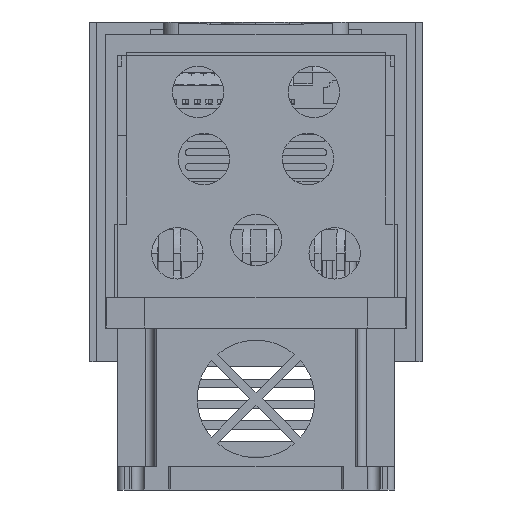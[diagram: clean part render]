
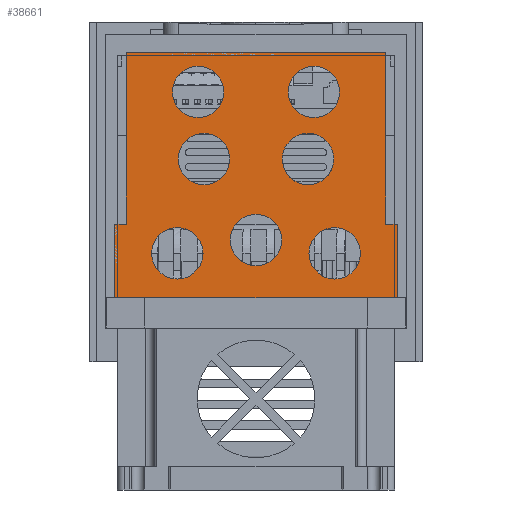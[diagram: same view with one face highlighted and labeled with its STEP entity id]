
A CAD part, front view. The second image highlights one B-rep face of the part: STEP entity #38661.
In plain terms, the highlighted planar face has unit normal (0, -1, 0).
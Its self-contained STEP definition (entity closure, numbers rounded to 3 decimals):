
#37435=DIRECTION('',(-1.,0.,0.));
#37436=VECTOR('',#37435,4.959);
#37437=CARTESIAN_POINT('',(-56.041,-184.,114.908));
#37438=LINE('',#37437,#37436);
#37547=DIRECTION('',(-1.,0.,0.));
#37548=VECTOR('',#37547,112.082);
#37549=CARTESIAN_POINT('',(56.041,-184.,189.));
#37550=LINE('',#37549,#37548);
#37551=DIRECTION('',(0.,0.,1.));
#37552=VECTOR('',#37551,74.092);
#37553=CARTESIAN_POINT('',(56.041,-184.,114.908));
#37554=LINE('',#37553,#37552);
#37587=DIRECTION('',(0.,0.,1.));
#37588=VECTOR('',#37587,31.908);
#37589=CARTESIAN_POINT('',(61.,-184.,83.));
#37590=LINE('',#37589,#37588);
#37855=DIRECTION('',(0.,0.,1.));
#37856=VECTOR('',#37855,74.092);
#37857=CARTESIAN_POINT('',(-56.041,-184.,114.908));
#37858=LINE('',#37857,#37856);
#37859=DIRECTION('',(1.,0.,0.));
#37860=VECTOR('',#37859,4.959);
#37861=CARTESIAN_POINT('',(56.041,-184.,114.908));
#37862=LINE('',#37861,#37860);
#37863=DIRECTION('',(-1.,0.,0.));
#37864=VECTOR('',#37863,122.);
#37865=CARTESIAN_POINT('',(61.,-184.,83.));
#37866=LINE('',#37865,#37864);
#37867=DIRECTION('',(0.,0.,1.));
#37868=VECTOR('',#37867,31.908);
#37869=CARTESIAN_POINT('',(-61.,-184.,83.));
#37870=LINE('',#37869,#37868);
#37871=CARTESIAN_POINT('',(-22.5,-184.,143.));
#37872=DIRECTION('',(0.,-1.,0.));
#37873=DIRECTION('',(1.,0.,0.));
#37874=AXIS2_PLACEMENT_3D('',#37871,#37872,#37873);
#37876=CARTESIAN_POINT('',(-22.5,-184.,143.));
#37877=DIRECTION('',(0.,-1.,0.));
#37878=DIRECTION('',(-1.,0.,0.));
#37879=AXIS2_PLACEMENT_3D('',#37876,#37877,#37878);
#37881=CARTESIAN_POINT('',(-34.,-184.,102.25));
#37882=DIRECTION('',(0.,-1.,0.));
#37883=DIRECTION('',(1.,0.,0.));
#37884=AXIS2_PLACEMENT_3D('',#37881,#37882,#37883);
#37886=CARTESIAN_POINT('',(-34.,-184.,102.25));
#37887=DIRECTION('',(0.,-1.,0.));
#37888=DIRECTION('',(-1.,0.,0.));
#37889=AXIS2_PLACEMENT_3D('',#37886,#37887,#37888);
#37891=CARTESIAN_POINT('',(0.,-184.,108.));
#37892=DIRECTION('',(0.,-1.,0.));
#37893=DIRECTION('',(-1.,0.,0.));
#37894=AXIS2_PLACEMENT_3D('',#37891,#37892,#37893);
#37896=CARTESIAN_POINT('',(0.,-184.,108.));
#37897=DIRECTION('',(0.,-1.,0.));
#37898=DIRECTION('',(1.,0.,0.));
#37899=AXIS2_PLACEMENT_3D('',#37896,#37897,#37898);
#37901=CARTESIAN_POINT('',(34.,-184.,102.25));
#37902=DIRECTION('',(0.,-1.,0.));
#37903=DIRECTION('',(1.,0.,0.));
#37904=AXIS2_PLACEMENT_3D('',#37901,#37902,#37903);
#37906=CARTESIAN_POINT('',(34.,-184.,102.25));
#37907=DIRECTION('',(0.,-1.,0.));
#37908=DIRECTION('',(-1.,0.,0.));
#37909=AXIS2_PLACEMENT_3D('',#37906,#37907,#37908);
#37911=CARTESIAN_POINT('',(25.,-184.,172.));
#37912=DIRECTION('',(0.,-1.,0.));
#37913=DIRECTION('',(-1.,0.,0.));
#37914=AXIS2_PLACEMENT_3D('',#37911,#37912,#37913);
#37916=CARTESIAN_POINT('',(25.,-184.,172.));
#37917=DIRECTION('',(0.,-1.,0.));
#37918=DIRECTION('',(1.,0.,0.));
#37919=AXIS2_PLACEMENT_3D('',#37916,#37917,#37918);
#37921=CARTESIAN_POINT('',(22.5,-184.,143.));
#37922=DIRECTION('',(0.,-1.,0.));
#37923=DIRECTION('',(0.734,0.,0.679));
#37924=AXIS2_PLACEMENT_3D('',#37921,#37922,#37923);
#37926=CARTESIAN_POINT('',(22.5,-184.,143.));
#37927=DIRECTION('',(0.,-1.,0.));
#37928=DIRECTION('',(-0.734,0.,0.679));
#37929=AXIS2_PLACEMENT_3D('',#37926,#37927,#37928);
#37931=CARTESIAN_POINT('',(22.5,-184.,143.));
#37932=DIRECTION('',(0.,-1.,0.));
#37933=DIRECTION('',(-1.,0.,0.));
#37934=AXIS2_PLACEMENT_3D('',#37931,#37932,#37933);
#37936=CARTESIAN_POINT('',(22.5,-184.,143.));
#37937=DIRECTION('',(0.,-1.,0.));
#37938=DIRECTION('',(0.734,0.,-0.679));
#37939=AXIS2_PLACEMENT_3D('',#37936,#37937,#37938);
#37941=CARTESIAN_POINT('',(22.5,-184.,143.));
#37942=DIRECTION('',(0.,-1.,0.));
#37943=DIRECTION('',(1.,0.,0.));
#37944=AXIS2_PLACEMENT_3D('',#37941,#37942,#37943);
#37946=CARTESIAN_POINT('',(-25.,-184.,172.));
#37947=DIRECTION('',(0.,-1.,0.));
#37948=DIRECTION('',(-1.,0.,0.));
#37949=AXIS2_PLACEMENT_3D('',#37946,#37947,#37948);
#37951=CARTESIAN_POINT('',(-25.,-184.,172.));
#37952=DIRECTION('',(0.,-1.,0.));
#37953=DIRECTION('',(1.,0.,0.));
#37954=AXIS2_PLACEMENT_3D('',#37951,#37952,#37953);
#38061=CARTESIAN_POINT('',(-61.,-184.,114.908));
#38063=VERTEX_POINT('',#38061);
#38064=CARTESIAN_POINT('',(-61.,-184.,83.));
#38065=VERTEX_POINT('',#38064);
#38074=CARTESIAN_POINT('',(-56.041,-184.,114.908));
#38075=VERTEX_POINT('',#38074);
#38118=CARTESIAN_POINT('',(-36.1,-184.,172.));
#38119=CARTESIAN_POINT('',(-13.9,-184.,172.));
#38120=VERTEX_POINT('',#38118);
#38121=VERTEX_POINT('',#38119);
#38122=CARTESIAN_POINT('',(-56.041,-184.,189.));
#38123=VERTEX_POINT('',#38122);
#38124=CARTESIAN_POINT('',(56.041,-184.,189.));
#38125=VERTEX_POINT('',#38124);
#38126=CARTESIAN_POINT('',(56.041,-184.,114.908));
#38127=VERTEX_POINT('',#38126);
#38128=CARTESIAN_POINT('',(61.,-184.,114.908));
#38129=VERTEX_POINT('',#38128);
#38130=CARTESIAN_POINT('',(61.,-184.,83.));
#38131=VERTEX_POINT('',#38130);
#38132=CARTESIAN_POINT('',(-11.4,-184.,143.));
#38133=CARTESIAN_POINT('',(-33.6,-184.,143.));
#38134=VERTEX_POINT('',#38132);
#38135=VERTEX_POINT('',#38133);
#38136=CARTESIAN_POINT('',(-22.9,-184.,102.25));
#38137=CARTESIAN_POINT('',(-45.1,-184.,102.25));
#38138=VERTEX_POINT('',#38136);
#38139=VERTEX_POINT('',#38137);
#38140=CARTESIAN_POINT('',(-11.1,-184.,108.));
#38141=CARTESIAN_POINT('',(11.1,-184.,108.));
#38142=VERTEX_POINT('',#38140);
#38143=VERTEX_POINT('',#38141);
#38144=CARTESIAN_POINT('',(45.1,-184.,102.25));
#38145=CARTESIAN_POINT('',(22.9,-184.,102.25));
#38146=VERTEX_POINT('',#38144);
#38147=VERTEX_POINT('',#38145);
#38148=CARTESIAN_POINT('',(13.9,-184.,172.));
#38149=CARTESIAN_POINT('',(36.1,-184.,172.));
#38150=VERTEX_POINT('',#38148);
#38151=VERTEX_POINT('',#38149);
#38152=CARTESIAN_POINT('',(30.645,-184.,150.541));
#38153=CARTESIAN_POINT('',(14.355,-184.,150.541));
#38154=VERTEX_POINT('',#38152);
#38155=VERTEX_POINT('',#38153);
#38156=CARTESIAN_POINT('',(11.4,-184.,143.));
#38157=VERTEX_POINT('',#38156);
#38158=CARTESIAN_POINT('',(30.645,-184.,135.459));
#38159=VERTEX_POINT('',#38158);
#38160=CARTESIAN_POINT('',(33.6,-184.,143.));
#38161=VERTEX_POINT('',#38160);
#38598=CARTESIAN_POINT('',(-61.,-184.,189.));
#38599=DIRECTION('',(0.,-1.,0.));
#38600=DIRECTION('',(0.,0.,-1.));
#38601=AXIS2_PLACEMENT_3D('',#38598,#38599,#38600);
#38602=PLANE('',#38601);
#38603=ORIENTED_EDGE('',*,*,#38373,.T.);
#38604=ORIENTED_EDGE('',*,*,#38388,.F.);
#38605=ORIENTED_EDGE('',*,*,#38401,.F.);
#38606=ORIENTED_EDGE('',*,*,#38414,.T.);
#38607=ORIENTED_EDGE('',*,*,#38434,.F.);
#38608=ORIENTED_EDGE('',*,*,#38531,.T.);
#38609=ORIENTED_EDGE('',*,*,#38269,.T.);
#38610=ORIENTED_EDGE('',*,*,#38292,.F.);
#38611=EDGE_LOOP('',(#38603,#38604,#38605,#38606,#38607,#38608,#38609,#38610));
#38612=FACE_OUTER_BOUND('',#38611,.F.);
#38614=ORIENTED_EDGE('',*,*,#38613,.T.);
#38616=ORIENTED_EDGE('',*,*,#38615,.T.);
#38617=EDGE_LOOP('',(#38614,#38616));
#38618=FACE_BOUND('',#38617,.F.);
#38620=ORIENTED_EDGE('',*,*,#38619,.T.);
#38622=ORIENTED_EDGE('',*,*,#38621,.T.);
#38623=EDGE_LOOP('',(#38620,#38622));
#38624=FACE_BOUND('',#38623,.F.);
#38626=ORIENTED_EDGE('',*,*,#38625,.T.);
#38628=ORIENTED_EDGE('',*,*,#38627,.T.);
#38629=EDGE_LOOP('',(#38626,#38628));
#38630=FACE_BOUND('',#38629,.F.);
#38632=ORIENTED_EDGE('',*,*,#38631,.T.);
#38634=ORIENTED_EDGE('',*,*,#38633,.T.);
#38635=EDGE_LOOP('',(#38632,#38634));
#38636=FACE_BOUND('',#38635,.F.);
#38638=ORIENTED_EDGE('',*,*,#38637,.T.);
#38640=ORIENTED_EDGE('',*,*,#38639,.T.);
#38641=EDGE_LOOP('',(#38638,#38640));
#38642=FACE_BOUND('',#38641,.F.);
#38644=ORIENTED_EDGE('',*,*,#38643,.T.);
#38646=ORIENTED_EDGE('',*,*,#38645,.T.);
#38648=ORIENTED_EDGE('',*,*,#38647,.T.);
#38650=ORIENTED_EDGE('',*,*,#38649,.T.);
#38652=ORIENTED_EDGE('',*,*,#38651,.T.);
#38653=EDGE_LOOP('',(#38644,#38646,#38648,#38650,#38652));
#38654=FACE_BOUND('',#38653,.F.);
#38656=ORIENTED_EDGE('',*,*,#38655,.T.);
#38658=ORIENTED_EDGE('',*,*,#38657,.T.);
#38659=EDGE_LOOP('',(#38656,#38658));
#38660=FACE_BOUND('',#38659,.F.);
#37875=CIRCLE('',#37874,11.1);
#37880=CIRCLE('',#37879,11.1);
#37885=CIRCLE('',#37884,11.1);
#37890=CIRCLE('',#37889,11.1);
#37895=CIRCLE('',#37894,11.1);
#37900=CIRCLE('',#37899,11.1);
#37905=CIRCLE('',#37904,11.1);
#37910=CIRCLE('',#37909,11.1);
#37915=CIRCLE('',#37914,11.1);
#37920=CIRCLE('',#37919,11.1);
#37925=CIRCLE('',#37924,11.1);
#37930=CIRCLE('',#37929,11.1);
#37935=CIRCLE('',#37934,11.1);
#37940=CIRCLE('',#37939,11.1);
#37945=CIRCLE('',#37944,11.1);
#37950=CIRCLE('',#37949,11.1);
#37955=CIRCLE('',#37954,11.1);
#38269=EDGE_CURVE('',#38065,#38063,#37870,.T.);
#38292=EDGE_CURVE('',#38075,#38063,#37438,.T.);
#38373=EDGE_CURVE('',#38075,#38123,#37858,.T.);
#38388=EDGE_CURVE('',#38125,#38123,#37550,.T.);
#38401=EDGE_CURVE('',#38127,#38125,#37554,.T.);
#38414=EDGE_CURVE('',#38127,#38129,#37862,.T.);
#38434=EDGE_CURVE('',#38131,#38129,#37590,.T.);
#38531=EDGE_CURVE('',#38131,#38065,#37866,.T.);
#38613=EDGE_CURVE('',#38134,#38135,#37875,.T.);
#38615=EDGE_CURVE('',#38135,#38134,#37880,.T.);
#38619=EDGE_CURVE('',#38138,#38139,#37885,.T.);
#38621=EDGE_CURVE('',#38139,#38138,#37890,.T.);
#38625=EDGE_CURVE('',#38142,#38143,#37895,.T.);
#38627=EDGE_CURVE('',#38143,#38142,#37900,.T.);
#38631=EDGE_CURVE('',#38146,#38147,#37905,.T.);
#38633=EDGE_CURVE('',#38147,#38146,#37910,.T.);
#38637=EDGE_CURVE('',#38150,#38151,#37915,.T.);
#38639=EDGE_CURVE('',#38151,#38150,#37920,.T.);
#38643=EDGE_CURVE('',#38154,#38155,#37925,.T.);
#38645=EDGE_CURVE('',#38155,#38157,#37930,.T.);
#38647=EDGE_CURVE('',#38157,#38159,#37935,.T.);
#38649=EDGE_CURVE('',#38159,#38161,#37940,.T.);
#38651=EDGE_CURVE('',#38161,#38154,#37945,.T.);
#38655=EDGE_CURVE('',#38120,#38121,#37950,.T.);
#38657=EDGE_CURVE('',#38121,#38120,#37955,.T.);
#38661=ADVANCED_FACE('',(#38612,#38618,#38624,#38630,#38636,#38642,#38654,
#38660),#38602,.T.);
